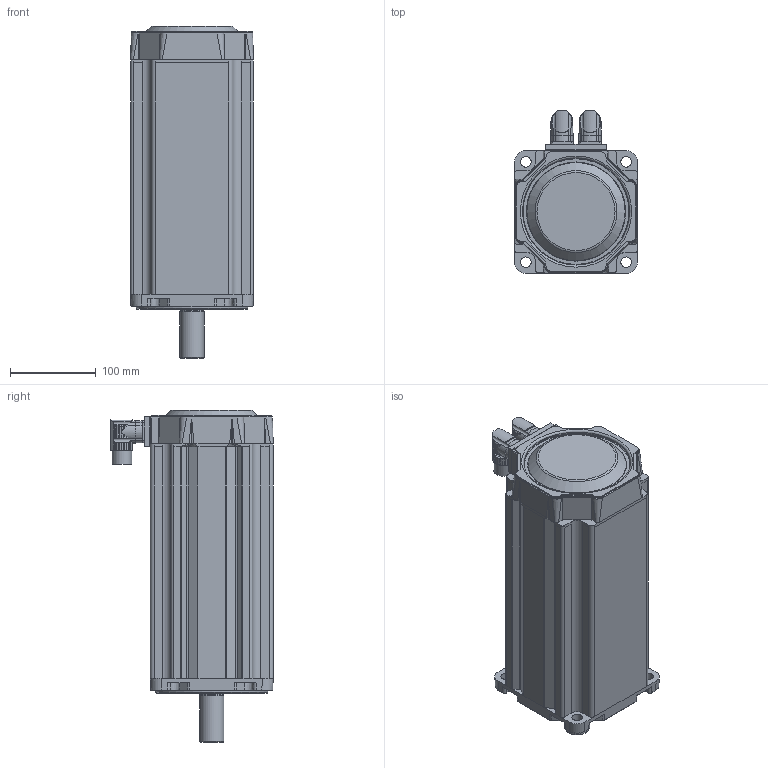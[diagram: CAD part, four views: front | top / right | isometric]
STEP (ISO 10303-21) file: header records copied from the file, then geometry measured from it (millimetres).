
FILE_DESCRIPTION((''),'2;1');
FILE_NAME('C:\Documents and Settings\jevans\My Documents\Engineering Projects\MPJ\MPJ1424XXX_NPSB.stp','2007-05-02T10:42:03',('jevans'),(''),'Autodesk Inventor 11','Autodesk Inventor 11','');
FILE_SCHEMA(('AUTOMOTIVE_DESIGN { 1 0 10303 214 1 1 1 1 }'));
Length unit declared in the file: inch
Products named in the file (4): MPJ1424XXX_NPSB; MPP142_MOTOR_1; MPP142_MOTOR_2; MPP142_MOTOR_3
Assembly tree (3 placements, depth 2):
  MPJ1424XXX_NPSB
    MPP142_MOTOR_1
    MPP142_MOTOR_2
    MPP142_MOTOR_3
Bounding box: 142.75 x 188.8 x 386.08 mm (x, y, z)
Volume: 5715281.3 mm3; surface area: 291107.6 mm2
Topology: 3 solids, 3 shells, 893 faces, 2261 edges, 1418 vertices
Faces by surface type: cylinder 401, plane 283, bspline 146, cone 39, torus 22, sphere 2
Full cylindrical faces by diameter (mm): 0.178 x1, 1.143 x17, 2.032 x6, 2.794 x2, 6.401 x8, 8.382 x1, 12.217 x4, 19.05 x2, 19.685 x2, 22.86 x2, 27.645 x1, 28.001 x1, 29.921 x1, 29.997 x1, 36.83 x1, 55.88 x1, 66.04 x1, 71.526 x1, 72.009 x1, 72.034 x2, 76.352 x1, 80.95 x1, 124.46 x1, 129.997 x1
Entity records: 34278 total; most frequent: CARTESIAN_POINT 13907, ORIENTED_EDGE 4310, DIRECTION 3967, EDGE_CURVE 2155, AXIS2_PLACEMENT_3D 1520, VERTEX_POINT 1398, EDGE_LOOP 1041, VECTOR 927
